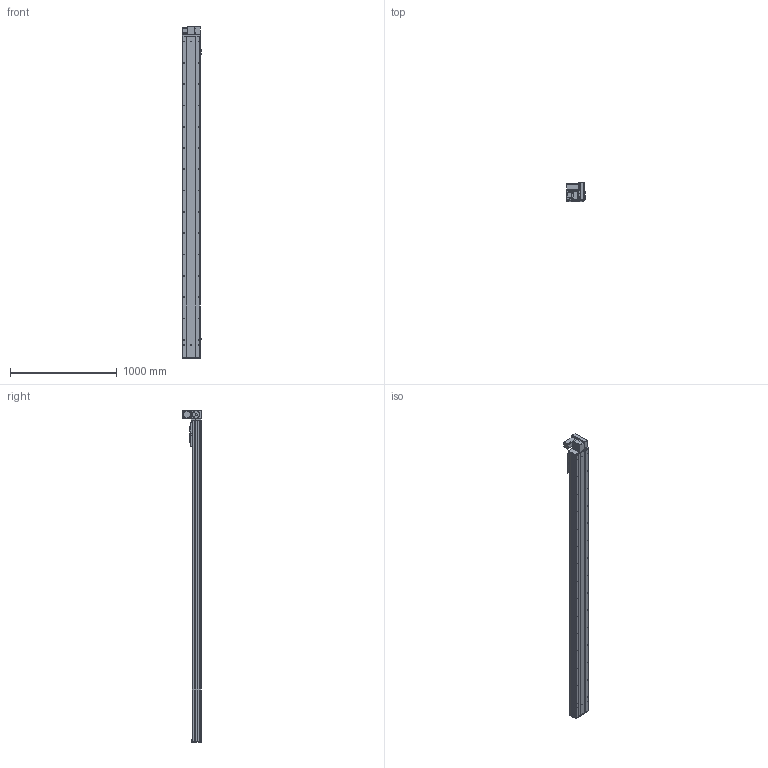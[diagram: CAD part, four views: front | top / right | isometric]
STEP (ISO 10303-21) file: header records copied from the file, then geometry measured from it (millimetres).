
FILE_DESCRIPTION (( 'STEP AP203' ), '1' );
FILE_NAME ('Y170CB-D105-S2700-UR-P400W.STEP', '2020-02-20T05:52:16', ( '微软用户' ), ( '微软中国' ), 'SwSTEP 2.0', 'SolidWorks 2017', '' );
FILE_SCHEMA (( 'CONFIG_CONTROL_DESIGN' ));
Length unit declared in the file: millimetre
Products named in the file (18): Y170CB-陔俋离換覜結え---; --70CB --喘謫眊楊擘啣-; Y1埴倛裔; 70CB-耜裔啣-; 17B-耜蚾蟀諉啣----; 70C--詩湍揤踡え-; 00B-俋欶BM--163; 70CB--耜裔; 70B喘謫眊----; 70C-雄赽釱-奻-; B-源倛裔啣; Y170CB-D105-S2700-UR-P400W; 0C--雄赽釱俋欶-170; 0B-萇儂楊擘啣; 70CB-詩湍--; san松下电机400不带刹车----; Y100-135俋离換覜ん--; 70CB-掛极-
Assembly tree (21 placements, depth 2):
  Y170CB-D105-S2700-UR-P400W
    B-源倛裔啣
    0B-萇儂楊擘啣
    san松下电机400不带刹车----
    70CB-掛极-
    --70CB --喘謫眊楊擘啣-
    70CB-耜裔啣-  x2
    70C--詩湍揤踡え-  x2
    70CB--耜裔
    70C-雄赽釱-奻-
    0C--雄赽釱俋欶-170
    70CB-詩湍--
    Y100-135俋离換覜ん--  x3
    Y170CB-陔俋离換覜結え---
    Y1埴倛裔
    17B-耜蚾蟀諉啣----
    00B-俋欶BM--163
    70B喘謫眊----
Bounding box: 183.5 x 174 x 3116 mm (x, y, z)
Volume: 13232389.1 mm3; surface area: 4781161.5 mm2
Topology: 21 solids, 21 shells, 1079 faces, 2909 edges, 1930 vertices
Faces by surface type: cylinder 593, plane 462, cone 24
Entity records: 34664 total; most frequent: CARTESIAN_POINT 6396, DIRECTION 5642, ORIENTED_EDGE 5300, EDGE_CURVE 2650, AXIS2_PLACEMENT_3D 2088, VERTEX_POINT 1760, VECTOR 1466, LINE 1466
